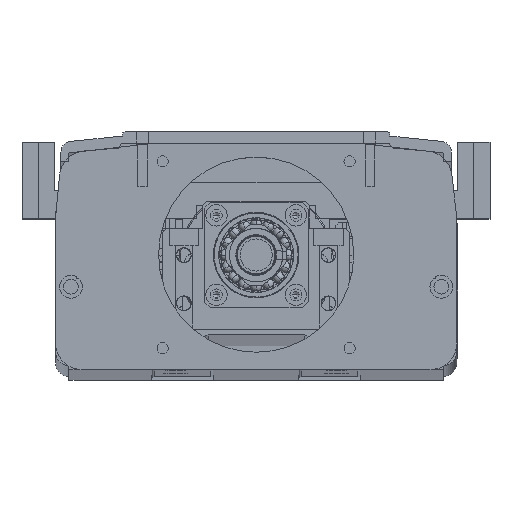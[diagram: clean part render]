
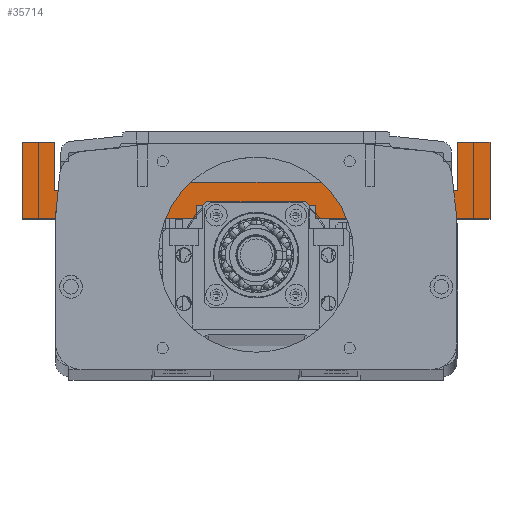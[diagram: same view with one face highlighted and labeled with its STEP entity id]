
A CAD part, top view. The second image highlights one B-rep face of the part: STEP entity #35714.
In plain terms, the highlighted planar face has unit normal (0, 0, 1).
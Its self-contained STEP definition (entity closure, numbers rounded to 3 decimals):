
#501 = PLANE ( 'NONE',  #72100 ) ;
#3129 = CARTESIAN_POINT ( 'NONE',  ( -36.791, -63.676, 150. ) ) ;
#3221 = EDGE_CURVE ( 'NONE', #115304, #92006, #5346, .T. ) ;
#5346 = LINE ( 'NONE', #16274, #26374 ) ;
#5496 = CARTESIAN_POINT ( 'NONE',  ( 105.709, -35.176, 150. ) ) ;
#6214 = CARTESIAN_POINT ( 'NONE',  ( 97.209, -53.176, 150. ) ) ;
#6358 = VERTEX_POINT ( 'NONE', #74394 ) ;
#8649 = VERTEX_POINT ( 'NONE', #71177 ) ;
#10953 = VECTOR ( 'NONE', #32399, 1000. ) ;
#11472 = DIRECTION ( 'NONE',  ( -1., 0., 0. ) ) ;
#12842 = ORIENTED_EDGE ( 'NONE', *, *, #89187, .F. ) ;
#13040 = ORIENTED_EDGE ( 'NONE', *, *, #41340, .F. ) ;
#14028 = VECTOR ( 'NONE', #94969, 1000. ) ;
#14970 = ORIENTED_EDGE ( 'NONE', *, *, #67931, .T. ) ;
#15307 = CARTESIAN_POINT ( 'NONE',  ( -57.291, -35.176, 150. ) ) ;
#16274 = CARTESIAN_POINT ( 'NONE',  ( -57.291, -63.676, 150. ) ) ;
#17017 = CARTESIAN_POINT ( 'NONE',  ( -57.291, -63.676, 150. ) ) ;
#17154 = DIRECTION ( 'NONE',  ( -1., 0., 0. ) ) ;
#17168 = CARTESIAN_POINT ( 'NONE',  ( 105.709, -35.176, 150. ) ) ;
#18338 = DIRECTION ( 'NONE',  ( 0., -1., 0. ) ) ;
#18677 = CARTESIAN_POINT ( 'NONE',  ( 105.709, -53.176, 150. ) ) ;
#19048 = LINE ( 'NONE', #83405, #66664 ) ;
#19191 = CARTESIAN_POINT ( 'NONE',  ( 52.459, -58.676, 150. ) ) ;
#19365 = VECTOR ( 'NONE', #18338, 1000. ) ;
#19685 = LINE ( 'NONE', #32380, #14028 ) ;
#20113 = EDGE_CURVE ( 'NONE', #61899, #39308, #63114, .T. ) ;
#21823 = VECTOR ( 'NONE', #11472, 1000. ) ;
#25293 = DIRECTION ( 'NONE',  ( 1., 0., 0. ) ) ;
#26374 = VECTOR ( 'NONE', #25293, 1000. ) ;
#27131 = FACE_OUTER_BOUND ( 'NONE', #100071, .T. ) ;
#27498 = DIRECTION ( 'NONE',  ( 1., 0., 0. ) ) ;
#28312 = ORIENTED_EDGE ( 'NONE', *, *, #3221, .T. ) ;
#28529 = EDGE_CURVE ( 'NONE', #114597, #74566, #45600, .T. ) ;
#28535 = CARTESIAN_POINT ( 'NONE',  ( -36.791, -50.176, 150. ) ) ;
#29254 = EDGE_CURVE ( 'NONE', #74184, #99385, #115484, .T. ) ;
#32380 = CARTESIAN_POINT ( 'NONE',  ( 97.209, -63.676, 150. ) ) ;
#32399 = DIRECTION ( 'NONE',  ( 0., -1., 0. ) ) ;
#33850 = ORIENTED_EDGE ( 'NONE', *, *, #99520, .T. ) ;
#34048 = EDGE_CURVE ( 'NONE', #99650, #47687, #91417, .T. ) ;
#35714 = ADVANCED_FACE ( 'NONE', ( #27131 ), #501, .T. ) ;
#38111 = DIRECTION ( 'NONE',  ( 0., 1., 0. ) ) ;
#38466 = CARTESIAN_POINT ( 'NONE',  ( -57.291, -53.176, 150. ) ) ;
#38784 = DIRECTION ( 'NONE',  ( -1., 0., 0. ) ) ;
#39308 = VERTEX_POINT ( 'NONE', #6214 ) ;
#40689 = LINE ( 'NONE', #19191, #109238 ) ;
#41340 = EDGE_CURVE ( 'NONE', #109744, #114597, #40689, .T. ) ;
#41572 = VECTOR ( 'NONE', #65557, 1000. ) ;
#42408 = LINE ( 'NONE', #47084, #63448 ) ;
#43245 = VECTOR ( 'NONE', #109612, 1000. ) ;
#44125 = VECTOR ( 'NONE', #106446, 1000. ) ;
#45600 = LINE ( 'NONE', #74090, #21823 ) ;
#46164 = DIRECTION ( 'NONE',  ( 0., 1., 0. ) ) ;
#46195 = ORIENTED_EDGE ( 'NONE', *, *, #115676, .T. ) ;
#47084 = CARTESIAN_POINT ( 'NONE',  ( 117.709, -35.176, 150. ) ) ;
#47320 = DIRECTION ( 'NONE',  ( -1., 0., 0. ) ) ;
#47687 = VERTEX_POINT ( 'NONE', #17168 ) ;
#50089 = CARTESIAN_POINT ( 'NONE',  ( 7.959, -58.676, 150. ) ) ;
#51817 = CARTESIAN_POINT ( 'NONE',  ( 52.459, -63.676, 150. ) ) ;
#53698 = EDGE_CURVE ( 'NONE', #99385, #110988, #19048, .T. ) ;
#54290 = CARTESIAN_POINT ( 'NONE',  ( 7.959, -58.676, 150. ) ) ;
#56706 = DIRECTION ( 'NONE',  ( 0., -1., 0. ) ) ;
#58627 = VERTEX_POINT ( 'NONE', #72767 ) ;
#58735 = VERTEX_POINT ( 'NONE', #28535 ) ;
#59970 = VECTOR ( 'NONE', #75637, 1000. ) ;
#60133 = CARTESIAN_POINT ( 'NONE',  ( -57.291, -35.176, 150. ) ) ;
#60611 = ORIENTED_EDGE ( 'NONE', *, *, #20113, .T. ) ;
#61755 = CARTESIAN_POINT ( 'NONE',  ( 105.709, -35.176, 150. ) ) ;
#61899 = VERTEX_POINT ( 'NONE', #18677 ) ;
#63114 = LINE ( 'NONE', #91938, #95296 ) ;
#63448 = VECTOR ( 'NONE', #38111, 1000. ) ;
#65557 = DIRECTION ( 'NONE',  ( -1., 0., 0. ) ) ;
#66664 = VECTOR ( 'NONE', #38784, 1000. ) ;
#66979 = LINE ( 'NONE', #54290, #19365 ) ;
#67645 = VECTOR ( 'NONE', #17154, 1000. ) ;
#67662 = EDGE_CURVE ( 'NONE', #109744, #58627, #104740, .T. ) ;
#67931 = EDGE_CURVE ( 'NONE', #47687, #61899, #93591, .T. ) ;
#68130 = DIRECTION ( 'NONE',  ( 0., -1., 0. ) ) ;
#69797 = VECTOR ( 'NONE', #68130, 1000. ) ;
#70353 = EDGE_CURVE ( 'NONE', #8649, #58735, #112925, .T. ) ;
#71177 = CARTESIAN_POINT ( 'NONE',  ( 97.209, -50.176, 150. ) ) ;
#72100 = AXIS2_PLACEMENT_3D ( 'NONE', #89687, #81085, #27498 ) ;
#72767 = CARTESIAN_POINT ( 'NONE',  ( 117.709, -63.676, 150. ) ) ;
#73769 = CARTESIAN_POINT ( 'NONE',  ( 7.959, -63.676, 150. ) ) ;
#74090 = CARTESIAN_POINT ( 'NONE',  ( 7.959, -58.676, 150. ) ) ;
#74184 = VERTEX_POINT ( 'NONE', #92412 ) ;
#74394 = CARTESIAN_POINT ( 'NONE',  ( -36.791, -53.176, 150. ) ) ;
#74566 = VERTEX_POINT ( 'NONE', #50089 ) ;
#75637 = DIRECTION ( 'NONE',  ( 1., 0., 0. ) ) ;
#76921 = VECTOR ( 'NONE', #56706, 1000. ) ;
#79712 = LINE ( 'NONE', #3129, #76921 ) ;
#81085 = DIRECTION ( 'NONE',  ( 0., 0., 1. ) ) ;
#82352 = LINE ( 'NONE', #60133, #10953 ) ;
#82483 = EDGE_CURVE ( 'NONE', #39308, #8649, #19685, .T. ) ;
#83405 = CARTESIAN_POINT ( 'NONE',  ( -57.291, -35.176, 150. ) ) ;
#84255 = EDGE_CURVE ( 'NONE', #58735, #6358, #79712, .T. ) ;
#84591 = CARTESIAN_POINT ( 'NONE',  ( -57.291, -63.676, 150. ) ) ;
#89187 = EDGE_CURVE ( 'NONE', #74566, #92006, #66979, .T. ) ;
#89687 = CARTESIAN_POINT ( 'NONE',  ( -57.291, -63.676, 150. ) ) ;
#90474 = ORIENTED_EDGE ( 'NONE', *, *, #82483, .T. ) ;
#90859 = LINE ( 'NONE', #38466, #43245 ) ;
#91417 = LINE ( 'NONE', #61755, #67645 ) ;
#91674 = CARTESIAN_POINT ( 'NONE',  ( -45.291, -35.176, 150. ) ) ;
#91754 = CARTESIAN_POINT ( 'NONE',  ( -45.291, -50.176, 150. ) ) ;
#91938 = CARTESIAN_POINT ( 'NONE',  ( -57.291, -53.176, 150. ) ) ;
#92006 = VERTEX_POINT ( 'NONE', #73769 ) ;
#92412 = CARTESIAN_POINT ( 'NONE',  ( -45.291, -53.176, 150. ) ) ;
#93591 = LINE ( 'NONE', #5496, #69797 ) ;
#93761 = ORIENTED_EDGE ( 'NONE', *, *, #70353, .T. ) ;
#94969 = DIRECTION ( 'NONE',  ( 0., 1., 0. ) ) ;
#95296 = VECTOR ( 'NONE', #47320, 1000. ) ;
#97465 = CARTESIAN_POINT ( 'NONE',  ( -45.291, -35.176, 150. ) ) ;
#97792 = ORIENTED_EDGE ( 'NONE', *, *, #67662, .T. ) ;
#99385 = VERTEX_POINT ( 'NONE', #91674 ) ;
#99520 = EDGE_CURVE ( 'NONE', #6358, #74184, #90859, .T. ) ;
#99650 = VERTEX_POINT ( 'NONE', #110774 ) ;
#100071 = EDGE_LOOP ( 'NONE', ( #12842, #109586, #13040, #97792, #46195, #113268, #14970, #60611, #90474, #93761, #105494, #33850, #100724, #103692, #105304, #28312 ) ) ;
#100724 = ORIENTED_EDGE ( 'NONE', *, *, #29254, .T. ) ;
#101371 = EDGE_CURVE ( 'NONE', #110988, #115304, #82352, .T. ) ;
#102738 = CARTESIAN_POINT ( 'NONE',  ( 52.459, -58.676, 150. ) ) ;
#103692 = ORIENTED_EDGE ( 'NONE', *, *, #53698, .T. ) ;
#104740 = LINE ( 'NONE', #84591, #59970 ) ;
#105304 = ORIENTED_EDGE ( 'NONE', *, *, #101371, .T. ) ;
#105494 = ORIENTED_EDGE ( 'NONE', *, *, #84255, .T. ) ;
#106446 = DIRECTION ( 'NONE',  ( 0., 1., 0. ) ) ;
#109238 = VECTOR ( 'NONE', #46164, 1000. ) ;
#109586 = ORIENTED_EDGE ( 'NONE', *, *, #28529, .F. ) ;
#109612 = DIRECTION ( 'NONE',  ( -1., 0., 0. ) ) ;
#109744 = VERTEX_POINT ( 'NONE', #51817 ) ;
#110774 = CARTESIAN_POINT ( 'NONE',  ( 117.709, -35.176, 150. ) ) ;
#110988 = VERTEX_POINT ( 'NONE', #15307 ) ;
#112925 = LINE ( 'NONE', #91754, #41572 ) ;
#113268 = ORIENTED_EDGE ( 'NONE', *, *, #34048, .T. ) ;
#114597 = VERTEX_POINT ( 'NONE', #102738 ) ;
#115304 = VERTEX_POINT ( 'NONE', #17017 ) ;
#115484 = LINE ( 'NONE', #97465, #44125 ) ;
#115676 = EDGE_CURVE ( 'NONE', #58627, #99650, #42408, .T. ) ;
